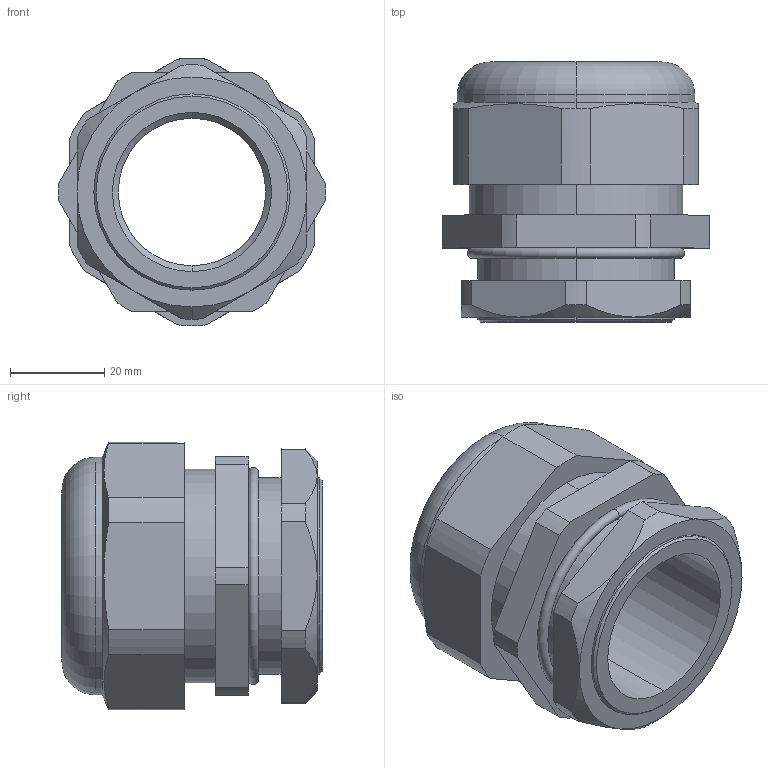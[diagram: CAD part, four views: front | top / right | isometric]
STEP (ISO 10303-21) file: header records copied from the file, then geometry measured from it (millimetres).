
FILE_DESCRIPTION (( 'STEP AP203' ), '1' );
FILE_NAME ('CH-B1.1_4.STEP', '2018-02-07T14:51:48', ( '' ), ( '' ), 'SwSTEP 2.0', 'SolidWorks 2012', '' );
FILE_SCHEMA (( 'CONFIG_CONTROL_DESIGN' ));
Length unit declared in the file: millimetre
Products named in the file (1): CH-B1.1_4
Bounding box: 56.74 x 55.2 x 56.7 mm (x, y, z)
Volume: 61846.1 mm3; surface area: 19736.8 mm2
Topology: 1 solids, 1 shells, 78 faces, 189 edges, 118 vertices
Faces by surface type: cylinder 34, plane 25, cone 15, torus 4
Entity records: 2486 total; most frequent: CARTESIAN_POINT 540, DIRECTION 415, ORIENTED_EDGE 378, EDGE_CURVE 189, AXIS2_PLACEMENT_3D 165, VERTEX_POINT 118, CIRCLE 86, VECTOR 85
